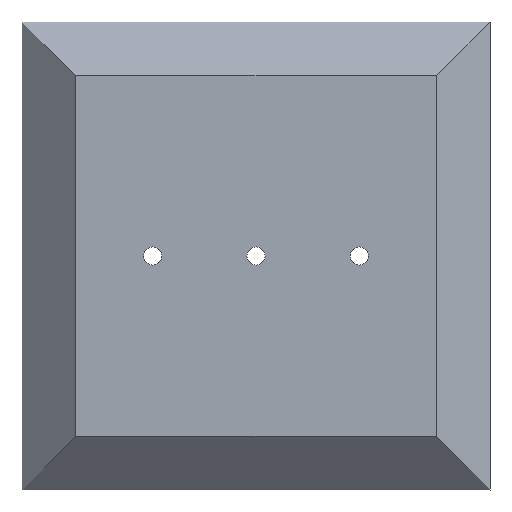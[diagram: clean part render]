
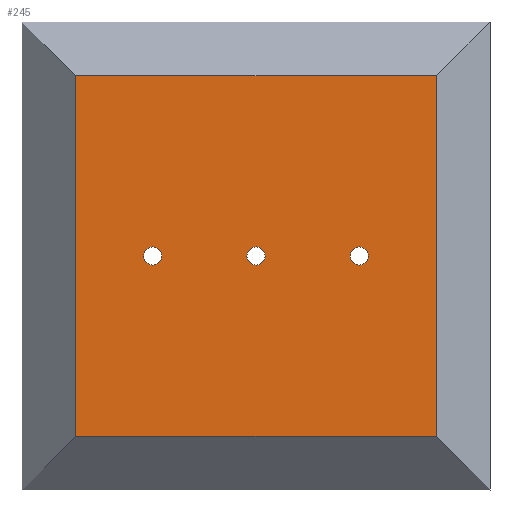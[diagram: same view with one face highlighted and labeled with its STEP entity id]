
A CAD part, front view. The second image highlights one B-rep face of the part: STEP entity #245.
In plain terms, the highlighted planar face has unit normal (0, -1, 0) as drawn and (0, 1, 0) by its records, which use the part's own axes.
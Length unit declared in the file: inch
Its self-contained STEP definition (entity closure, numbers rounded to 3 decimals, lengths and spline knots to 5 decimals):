
#6 = ORIENTED_EDGE ( 'NONE', *, *, #41, .T. ) ;
#25 = LINE ( 'NONE', #407, #627 ) ;
#28 = VERTEX_POINT ( 'NONE', #630 ) ;
#41 = EDGE_CURVE ( 'NONE', #573, #49, #25, .T. ) ;
#49 = VERTEX_POINT ( 'NONE', #662 ) ;
#64 = ORIENTED_EDGE ( 'NONE', *, *, #452, .F. ) ;
#67 = PLANE ( 'NONE',  #344 ) ;
#72 = ORIENTED_EDGE ( 'NONE', *, *, #686, .T. ) ;
#77 = ORIENTED_EDGE ( 'NONE', *, *, #496, .T. ) ;
#85 = VERTEX_POINT ( 'NONE', #260 ) ;
#102 = FACE_BOUND ( 'NONE', #556, .T. ) ;
#116 = LINE ( 'NONE', #171, #124 ) ;
#124 = VECTOR ( 'NONE', #664, 39.37008 ) ;
#131 = DIRECTION ( 'NONE',  ( 0., 0., -1. ) ) ;
#132 = AXIS2_PLACEMENT_3D ( 'NONE', #246, #698, #198 ) ;
#139 = DIRECTION ( 'NONE',  ( 0., 0., 1. ) ) ;
#141 = AXIS2_PLACEMENT_3D ( 'NONE', #206, #263, #153 ) ;
#142 = EDGE_LOOP ( 'NONE', ( #579, #559 ) ) ;
#146 = DIRECTION ( 'NONE',  ( 0., 1., 0. ) ) ;
#153 = DIRECTION ( 'NONE',  ( 0., 0., -1. ) ) ;
#155 = CIRCLE ( 'NONE', #319, 0.465 ) ;
#157 = EDGE_CURVE ( 'NONE', #617, #588, #194, .T. ) ;
#171 = CARTESIAN_POINT ( 'NONE',  ( 0., 0.475, 0. ) ) ;
#174 = DIRECTION ( 'NONE',  ( 0., -1., 0. ) ) ;
#194 = CIRCLE ( 'NONE', #141, 0.465 ) ;
#198 = DIRECTION ( 'NONE',  ( 0., 0., 1. ) ) ;
#201 = CIRCLE ( 'NONE', #132, 0.465 ) ;
#206 = CARTESIAN_POINT ( 'NONE',  ( 3.95, 0.475, -9.25 ) ) ;
#208 = AXIS2_PLACEMENT_3D ( 'NONE', #386, #502, #342 ) ;
#226 = VERTEX_POINT ( 'NONE', #273 ) ;
#235 = DIRECTION ( 'NONE',  ( -1., 0., 0. ) ) ;
#239 = CARTESIAN_POINT ( 'NONE',  ( 9.25, 0.475, -8.785 ) ) ;
#240 = EDGE_LOOP ( 'NONE', ( #610, #349 ) ) ;
#245 = ADVANCED_FACE ( 'NONE', ( #267, #606, #102, #325 ), #67, .F. ) ;
#246 = CARTESIAN_POINT ( 'NONE',  ( 14.55, 0.475, -9.25 ) ) ;
#253 = VERTEX_POINT ( 'NONE', #440 ) ;
#260 = CARTESIAN_POINT ( 'NONE',  ( 14.55, 0.475, -9.715 ) ) ;
#263 = DIRECTION ( 'NONE',  ( 0., 1., 0. ) ) ;
#267 = FACE_BOUND ( 'NONE', #142, .T. ) ;
#271 = EDGE_CURVE ( 'NONE', #396, #226, #379, .T. ) ;
#273 = CARTESIAN_POINT ( 'NONE',  ( 9.25, 0.475, -9.715 ) ) ;
#284 = ORIENTED_EDGE ( 'NONE', *, *, #271, .F. ) ;
#302 = ORIENTED_EDGE ( 'NONE', *, *, #620, .T. ) ;
#306 = EDGE_LOOP ( 'NONE', ( #302, #72, #6, #77 ) ) ;
#317 = CARTESIAN_POINT ( 'NONE',  ( 18.5, 0.475, 0. ) ) ;
#319 = AXIS2_PLACEMENT_3D ( 'NONE', #437, #497, #453 ) ;
#325 = FACE_OUTER_BOUND ( 'NONE', #306, .T. ) ;
#336 = EDGE_CURVE ( 'NONE', #588, #617, #155, .T. ) ;
#342 = DIRECTION ( 'NONE',  ( 0., 0., 1. ) ) ;
#344 = AXIS2_PLACEMENT_3D ( 'NONE', #621, #174, #493 ) ;
#349 = ORIENTED_EDGE ( 'NONE', *, *, #408, .F. ) ;
#365 = VECTOR ( 'NONE', #657, 39.37008 ) ;
#375 = CARTESIAN_POINT ( 'NONE',  ( 3.95, 0.475, -8.785 ) ) ;
#379 = CIRCLE ( 'NONE', #208, 0.465 ) ;
#386 = CARTESIAN_POINT ( 'NONE',  ( 9.25, 0.475, -9.25 ) ) ;
#396 = VERTEX_POINT ( 'NONE', #239 ) ;
#403 = CARTESIAN_POINT ( 'NONE',  ( 0., 0.475, -18.5 ) ) ;
#405 = AXIS2_PLACEMENT_3D ( 'NONE', #682, #632, #687 ) ;
#407 = CARTESIAN_POINT ( 'NONE',  ( 18.5, 0.475, 0. ) ) ;
#408 = EDGE_CURVE ( 'NONE', #85, #28, #635, .T. ) ;
#412 = CARTESIAN_POINT ( 'NONE',  ( 0., 0.475, -18.5 ) ) ;
#416 = CIRCLE ( 'NONE', #509, 0.465 ) ;
#437 = CARTESIAN_POINT ( 'NONE',  ( 3.95, 0.475, -9.25 ) ) ;
#440 = CARTESIAN_POINT ( 'NONE',  ( 0., 0.475, 0. ) ) ;
#452 = EDGE_CURVE ( 'NONE', #226, #396, #416, .T. ) ;
#453 = DIRECTION ( 'NONE',  ( 0., 0., -1. ) ) ;
#468 = LINE ( 'NONE', #412, #537 ) ;
#473 = VERTEX_POINT ( 'NONE', #403 ) ;
#484 = EDGE_CURVE ( 'NONE', #28, #85, #201, .T. ) ;
#493 = DIRECTION ( 'NONE',  ( 0., 0., -1. ) ) ;
#496 = EDGE_CURVE ( 'NONE', #49, #473, #468, .T. ) ;
#497 = DIRECTION ( 'NONE',  ( 0., 1., 0. ) ) ;
#502 = DIRECTION ( 'NONE',  ( 0., 1., 0. ) ) ;
#509 = AXIS2_PLACEMENT_3D ( 'NONE', #642, #146, #139 ) ;
#537 = VECTOR ( 'NONE', #235, 39.37008 ) ;
#556 = EDGE_LOOP ( 'NONE', ( #284, #64 ) ) ;
#559 = ORIENTED_EDGE ( 'NONE', *, *, #336, .F. ) ;
#573 = VERTEX_POINT ( 'NONE', #317 ) ;
#579 = ORIENTED_EDGE ( 'NONE', *, *, #157, .F. ) ;
#588 = VERTEX_POINT ( 'NONE', #653 ) ;
#600 = CARTESIAN_POINT ( 'NONE',  ( 0., 0.475, 0. ) ) ;
#606 = FACE_BOUND ( 'NONE', #240, .T. ) ;
#610 = ORIENTED_EDGE ( 'NONE', *, *, #484, .F. ) ;
#617 = VERTEX_POINT ( 'NONE', #375 ) ;
#620 = EDGE_CURVE ( 'NONE', #473, #253, #708, .T. ) ;
#621 = CARTESIAN_POINT ( 'NONE',  ( 0., 0.475, 0. ) ) ;
#627 = VECTOR ( 'NONE', #131, 39.37008 ) ;
#630 = CARTESIAN_POINT ( 'NONE',  ( 14.55, 0.475, -8.785 ) ) ;
#632 = DIRECTION ( 'NONE',  ( 0., 1., 0. ) ) ;
#635 = CIRCLE ( 'NONE', #405, 0.465 ) ;
#642 = CARTESIAN_POINT ( 'NONE',  ( 9.25, 0.475, -9.25 ) ) ;
#653 = CARTESIAN_POINT ( 'NONE',  ( 3.95, 0.475, -9.715 ) ) ;
#657 = DIRECTION ( 'NONE',  ( 0., 0., 1. ) ) ;
#662 = CARTESIAN_POINT ( 'NONE',  ( 18.5, 0.475, -18.5 ) ) ;
#664 = DIRECTION ( 'NONE',  ( 1., 0., 0. ) ) ;
#682 = CARTESIAN_POINT ( 'NONE',  ( 14.55, 0.475, -9.25 ) ) ;
#686 = EDGE_CURVE ( 'NONE', #253, #573, #116, .T. ) ;
#687 = DIRECTION ( 'NONE',  ( 0., 0., 1. ) ) ;
#698 = DIRECTION ( 'NONE',  ( 0., 1., 0. ) ) ;
#708 = LINE ( 'NONE', #600, #365 ) ;
